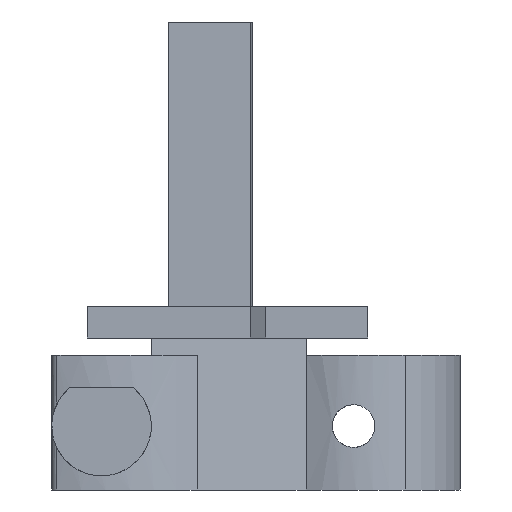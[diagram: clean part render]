
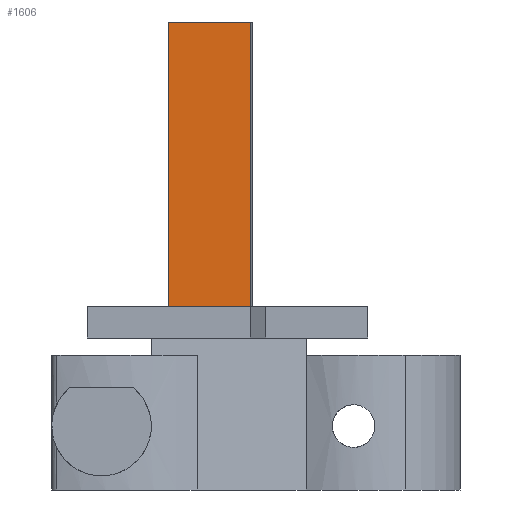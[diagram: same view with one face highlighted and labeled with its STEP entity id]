
A CAD part, front view. The second image highlights one B-rep face of the part: STEP entity #1606.
In plain terms, the highlighted planar face has unit normal (0, -1, 0).
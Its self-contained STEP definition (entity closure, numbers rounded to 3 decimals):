
#145 = VECTOR ( 'NONE', #697, 1000. ) ;
#250 = DIRECTION ( 'NONE',  ( 0., 0., -1. ) ) ;
#305 = ORIENTED_EDGE ( 'NONE', *, *, #2729, .T. ) ;
#382 = LINE ( 'NONE', #4021, #2091 ) ;
#424 = CARTESIAN_POINT ( 'NONE',  ( -0.775, -51.403, 43. ) ) ;
#697 = DIRECTION ( 'NONE',  ( 1., 0., 0. ) ) ;
#761 = LINE ( 'NONE', #1008, #145 ) ;
#818 = ORIENTED_EDGE ( 'NONE', *, *, #2743, .F. ) ;
#982 = VECTOR ( 'NONE', #1748, 1000. ) ;
#986 = ORIENTED_EDGE ( 'NONE', *, *, #1004, .F. ) ;
#1004 = EDGE_CURVE ( 'NONE', #3559, #2225, #2335, .T. ) ;
#1008 = CARTESIAN_POINT ( 'NONE',  ( -0.775, -51.403, 43. ) ) ;
#1606 = ADVANCED_FACE ( 'NONE', ( #2344 ), #3770, .F. ) ;
#1748 = DIRECTION ( 'NONE',  ( 1., 0., 0. ) ) ;
#1817 = VERTEX_POINT ( 'NONE', #2278 ) ;
#1826 = VERTEX_POINT ( 'NONE', #424 ) ;
#1834 = CARTESIAN_POINT ( 'NONE',  ( -0.775, -51.403, 83. ) ) ;
#1849 = VECTOR ( 'NONE', #3618, 1000. ) ;
#2091 = VECTOR ( 'NONE', #250, 1000. ) ;
#2143 = DIRECTION ( 'NONE',  ( 0., 0., 1. ) ) ;
#2225 = VERTEX_POINT ( 'NONE', #3126 ) ;
#2254 = AXIS2_PLACEMENT_3D ( 'NONE', #1834, #4044, #2143 ) ;
#2278 = CARTESIAN_POINT ( 'NONE',  ( -12.375, -51.403, 43. ) ) ;
#2335 = LINE ( 'NONE', #3644, #982 ) ;
#2344 = FACE_OUTER_BOUND ( 'NONE', #3517, .T. ) ;
#2696 = LINE ( 'NONE', #3612, #1849 ) ;
#2717 = ORIENTED_EDGE ( 'NONE', *, *, #3122, .T. ) ;
#2729 = EDGE_CURVE ( 'NONE', #3559, #1817, #382, .T. ) ;
#2743 = EDGE_CURVE ( 'NONE', #2225, #1826, #2696, .T. ) ;
#3122 = EDGE_CURVE ( 'NONE', #1817, #1826, #761, .T. ) ;
#3126 = CARTESIAN_POINT ( 'NONE',  ( -0.775, -51.403, 83. ) ) ;
#3517 = EDGE_LOOP ( 'NONE', ( #2717, #818, #986, #305 ) ) ;
#3559 = VERTEX_POINT ( 'NONE', #3667 ) ;
#3612 = CARTESIAN_POINT ( 'NONE',  ( -0.775, -51.403, 83. ) ) ;
#3618 = DIRECTION ( 'NONE',  ( 0., 0., -1. ) ) ;
#3644 = CARTESIAN_POINT ( 'NONE',  ( -0.775, -51.403, 83. ) ) ;
#3667 = CARTESIAN_POINT ( 'NONE',  ( -12.375, -51.403, 83. ) ) ;
#3770 = PLANE ( 'NONE',  #2254 ) ;
#4021 = CARTESIAN_POINT ( 'NONE',  ( -12.375, -51.403, 83. ) ) ;
#4044 = DIRECTION ( 'NONE',  ( 0., 1., 0. ) ) ;
